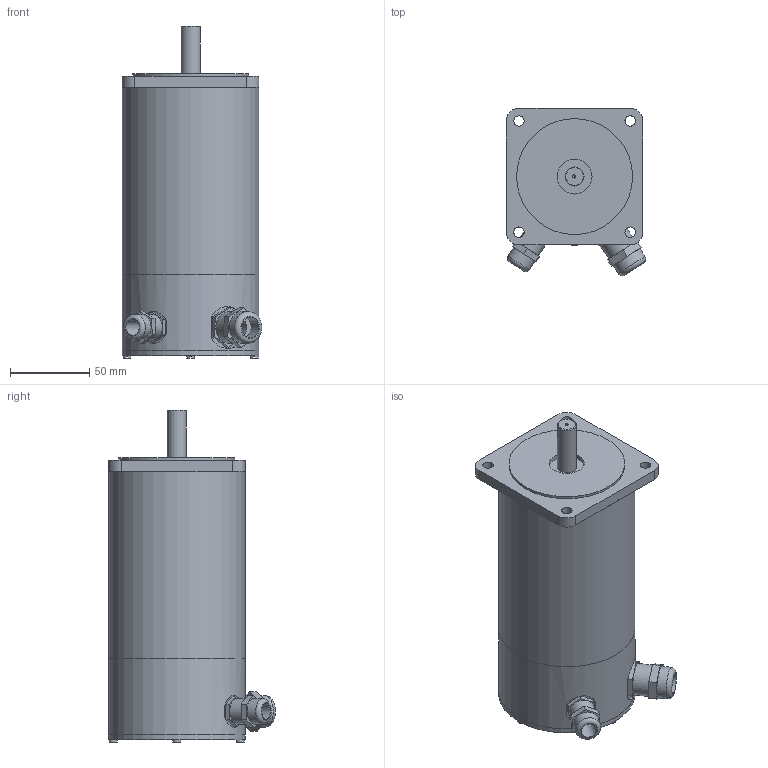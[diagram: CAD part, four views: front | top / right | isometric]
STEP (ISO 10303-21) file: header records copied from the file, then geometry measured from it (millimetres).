
FILE_DESCRIPTION((''),'2;1');
FILE_NAME('C:\Users\Reinhard\Documents\Inventor\Testschrittmotor\SM88\SM88.3-H200-KV.stp','2012-11-12T20:36:13',('Reinhard'),(''),'Autodesk Inventor 2012','Autodesk Inventor 2012','');
FILE_SCHEMA(('CONFIG_CONTROL_DESIGN'));
Length unit declared in the file: millimetre
Products named in the file (1): SM88
Bounding box: 87.8 x 105.15 x 209 mm (x, y, z)
Volume: 195828.7 mm3; surface area: 123588.3 mm2
Topology: 2 solids, 2 shells, 125 faces, 281 edges, 185 vertices
Faces by surface type: plane 79, cylinder 42, torus 2, cone 2
Full cylindrical faces by diameter (mm): 2 x1, 5 x4, 6.6 x4, 10 x1, 12 x3, 13 x2, 15 x1, 16 x2, 18.376 x1, 20 x3, 22 x1, 73 x1, 78 x2, 82 x1, 86 x3
Entity records: 3404 total; most frequent: CARTESIAN_POINT 674, DIRECTION 568, ORIENTED_EDGE 476, EDGE_CURVE 238, AXIS2_PLACEMENT_3D 218, EDGE_LOOP 198, VERTEX_POINT 176, VECTOR 132
